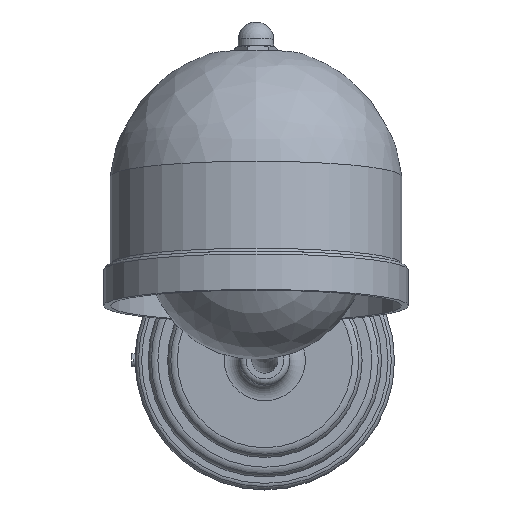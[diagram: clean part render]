
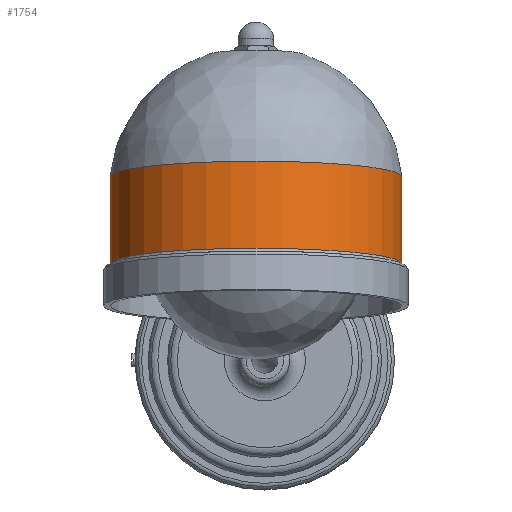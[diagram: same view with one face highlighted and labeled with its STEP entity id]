
A CAD part, top view. The second image highlights one B-rep face of the part: STEP entity #1754.
In plain terms, the highlighted cylindrical face has radius 45 mm (diameter 90 mm), a full revolution.
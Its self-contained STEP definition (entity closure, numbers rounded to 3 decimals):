
#307=FACE_OUTER_BOUND('',#427,.T.);
#427=EDGE_LOOP('',(#1455,#1456,#1457,#1458,#1459,#1460,#1461,#1462));
#512=LINE('',#3501,#571);
#571=VECTOR('',#2616,45.);
#689=CIRCLE('',#2129,45.);
#690=CIRCLE('',#2130,45.);
#691=CIRCLE('',#2131,45.);
#693=CIRCLE('',#2134,45.);
#694=CIRCLE('',#2135,45.);
#695=CIRCLE('',#2136,45.);
#844=VERTEX_POINT('',#3488);
#845=VERTEX_POINT('',#3489);
#846=VERTEX_POINT('',#3491);
#847=VERTEX_POINT('',#3496);
#848=VERTEX_POINT('',#3497);
#849=VERTEX_POINT('',#3499);
#1060=EDGE_CURVE('',#844,#845,#689,.T.);
#1061=EDGE_CURVE('',#846,#844,#690,.T.);
#1062=EDGE_CURVE('',#845,#846,#691,.T.);
#1064=EDGE_CURVE('',#847,#848,#693,.T.);
#1065=EDGE_CURVE('',#849,#847,#694,.T.);
#1066=EDGE_CURVE('',#849,#846,#512,.T.);
#1067=EDGE_CURVE('',#848,#849,#695,.T.);
#1455=ORIENTED_EDGE('',*,*,#1064,.F.);
#1456=ORIENTED_EDGE('',*,*,#1065,.F.);
#1457=ORIENTED_EDGE('',*,*,#1066,.T.);
#1458=ORIENTED_EDGE('',*,*,#1061,.T.);
#1459=ORIENTED_EDGE('',*,*,#1060,.T.);
#1460=ORIENTED_EDGE('',*,*,#1062,.T.);
#1461=ORIENTED_EDGE('',*,*,#1066,.F.);
#1462=ORIENTED_EDGE('',*,*,#1067,.F.);
#1683=CYLINDRICAL_SURFACE('',#2133,45.);
#1754=ADVANCED_FACE('',(#307),#1683,.T.);
#2129=AXIS2_PLACEMENT_3D('',#3490,#2602,#2603);
#2130=AXIS2_PLACEMENT_3D('',#3492,#2604,#2605);
#2131=AXIS2_PLACEMENT_3D('',#3493,#2606,#2607);
#2133=AXIS2_PLACEMENT_3D('',#3495,#2610,#2611);
#2134=AXIS2_PLACEMENT_3D('',#3498,#2612,#2613);
#2135=AXIS2_PLACEMENT_3D('',#3500,#2614,#2615);
#2136=AXIS2_PLACEMENT_3D('',#3502,#2617,#2618);
#2602=DIRECTION('center_axis',(0.,-1.,0.));
#2603=DIRECTION('ref_axis',(1.,0.,0.));
#2604=DIRECTION('center_axis',(0.,-1.,0.));
#2605=DIRECTION('ref_axis',(1.,0.,0.));
#2606=DIRECTION('center_axis',(0.,-1.,0.));
#2607=DIRECTION('ref_axis',(1.,0.,0.));
#2610=DIRECTION('center_axis',(0.,-1.,0.));
#2611=DIRECTION('ref_axis',(1.,0.,0.));
#2612=DIRECTION('center_axis',(0.,-1.,0.));
#2613=DIRECTION('ref_axis',(1.,0.,0.));
#2614=DIRECTION('center_axis',(0.,-1.,0.));
#2615=DIRECTION('ref_axis',(1.,0.,0.));
#2616=DIRECTION('',(0.,1.,0.));
#2617=DIRECTION('center_axis',(0.,-1.,0.));
#2618=DIRECTION('ref_axis',(1.,0.,0.));
#3488=CARTESIAN_POINT('',(45.,40.,0.));
#3489=CARTESIAN_POINT('',(0.,40.,45.));
#3490=CARTESIAN_POINT('Origin',(0.,40.,0.));
#3491=CARTESIAN_POINT('',(-45.,40.,0.));
#3492=CARTESIAN_POINT('Origin',(0.,40.,0.));
#3493=CARTESIAN_POINT('Origin',(0.,40.,0.));
#3495=CARTESIAN_POINT('Origin',(0.,26.5,0.));
#3496=CARTESIAN_POINT('',(45.,13.,0.));
#3497=CARTESIAN_POINT('',(0.,13.,45.));
#3498=CARTESIAN_POINT('Origin',(0.,13.,0.));
#3499=CARTESIAN_POINT('',(-45.,13.,0.));
#3500=CARTESIAN_POINT('Origin',(0.,13.,0.));
#3501=CARTESIAN_POINT('',(-45.,26.5,0.));
#3502=CARTESIAN_POINT('Origin',(0.,13.,0.));
